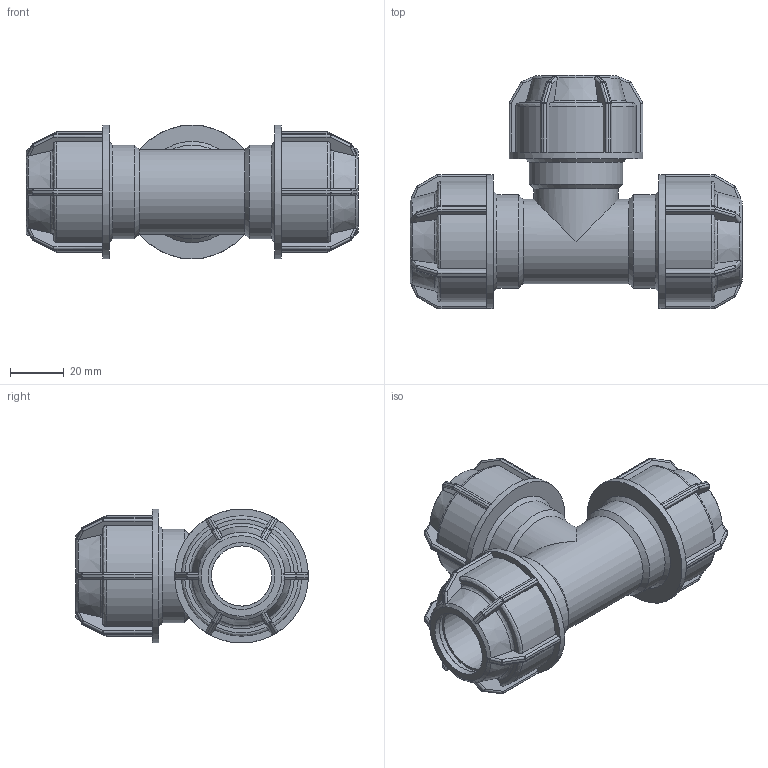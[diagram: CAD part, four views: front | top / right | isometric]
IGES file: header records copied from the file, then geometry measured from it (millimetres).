
Global section: file name: 140400025.ipt; native system: Autodesk Inventor 2015; preprocessor: unknown; author: KIM; date: 20180409.131029; units: millimetre
Bounding box: 124 x 87 x 50 mm (x, y, z)
Volume: 119181.5 mm3; surface area: 42681.1 mm2
Topology: 1 solids, 1 shells, 607 faces, 1490 edges, 865 vertices
Faces by surface type: plane 291, cylinder 170, sphere 72, revolution 50, cone 24
Full cylindrical faces by diameter (mm): 31.5 x2, 35 x3, 50 x3
